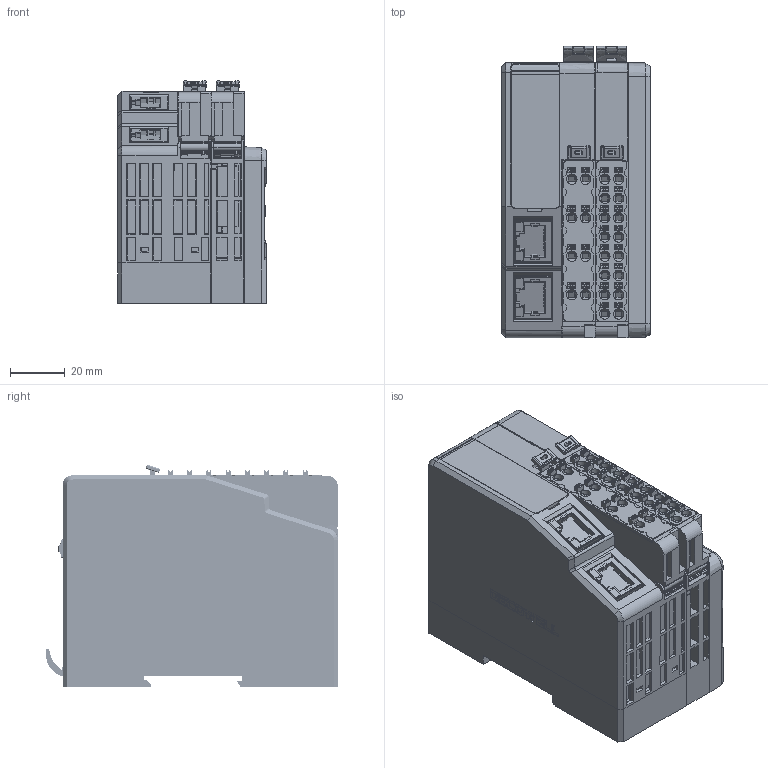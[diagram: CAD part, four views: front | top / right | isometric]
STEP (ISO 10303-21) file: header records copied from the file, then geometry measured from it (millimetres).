
FILE_DESCRIPTION(/* description */ (''),/* implementation_level */ '2;1');
FILE_NAME(/* name */ 'RX系列-3D.stp',/* time_stamp */ '2023-09-07T18:26:39+08:00',/* author */ (''),/* organization */ (''),/* preprocessor_version */ 'ST-DEVELOPER v16',/* originating_system */ 'SIEMENS PLM Software NX 10.0',/* authorisation */ '');
FILE_SCHEMA (('AP203_CONFIGURATION_CONTROLLED_3D_DESIGN_OF_MECHANICAL_PARTS_AND_ASSEMBLIES_MIM_LF { 1 0 10303 403 2 1 2}'));
Products named in the file (1): chao4A80DB28lcrm
Bounding box: 54.05 x 106.23 x 80.81 mm (x, y, z)
Volume: 368496.6 mm3; surface area: 118399.7 mm2
Topology: 19 solids, 29 shells, 8876 faces, 25495 edges, 16760 vertices
Faces by surface type: plane 6290, cylinder 1864, extrusion 301, cone 220, bspline 164, torus 23, sphere 14
Full cylindrical faces by diameter (mm): 0.5 x2
Entity records: 306392 total; most frequent: CARTESIAN_POINT 72628, ORIENTED_EDGE 50914, DIRECTION 45519, EDGE_CURVE 25457, VECTOR 19627, LINE 19326, VERTEX_POINT 16757, AXIS2_PLACEMENT_3D 12946
